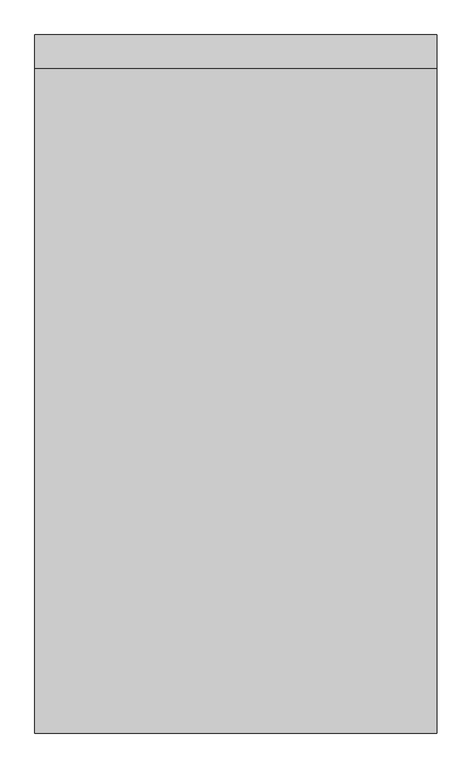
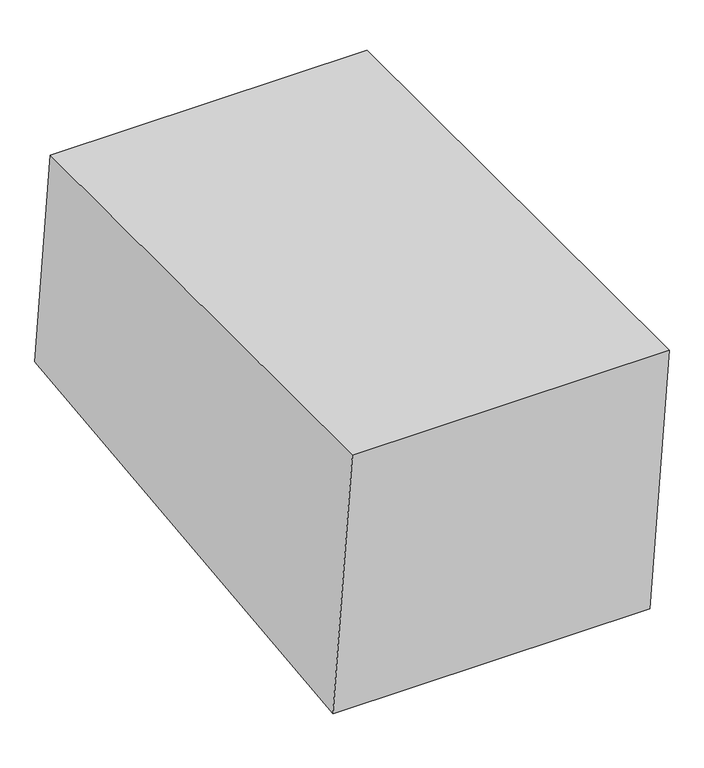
"""IFC4 building model written with IfcOpenShell, lengths in millimetres: proxy geometry, Excavation FamilySP : Excavation FamilySP."""

from ifc_helpers import new_model, si_unit, frame, origin, place, context, project, spatial, polyline, outline, extrude, source, transform, mapped, element, save


def generic_models_1954e40d(model_context):
    return source(origin(), model_context, "Body", "SweptSolid", [
        extrude(outline(polyline([(-257.9934447, 2253.1109733), (0.0, 0.0), (-4967.5401245, -568.8103265), (-5290.7636538, 2253.9686847), (-257.9934447, 2253.1109733)])), frame((-1524.0, 0.0, 0.0), z_axis=(1.0, 0.0, 0.0), x_axis=(0.0, 1.0, 0.0)), (0.0, 0.0, 1.0), 3048.0),
    ])


if __name__ == "__main__":
    model = new_model("IFC4")
    model_context = context("Model", 3, world=origin())
    ifc_project = project(units=[si_unit("LENGTHUNIT", "METRE", prefix="MILLI")], contexts=[model_context])
    site = spatial("IfcSite", under=ifc_project)
    building = spatial("IfcBuilding", under=site)
    placement = place(None, origin())
    generic_models_shape = generic_models_1954e40d(model_context)
    element("IfcBuildingElementProxy", 1, Name="Excavation FamilySP : Excavation FamilySP", ObjectType="Excavation FamilySP : Excavation FamilySP", at=placement, inside=building, context=model_context, shape_type="MappedRepresentation", body=[
        mapped(generic_models_shape, transform((0.0, 0.0, 0.0), x_axis=(1.0, 0.0, 0.0), y_axis=(0.0, 1.0, 0.0), z_axis=(0.0, 0.0, 1.0))),
    ])
    save(model, "model.ifc")
